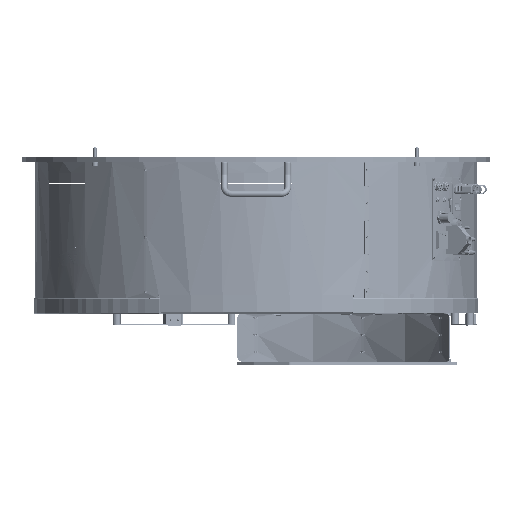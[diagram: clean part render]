
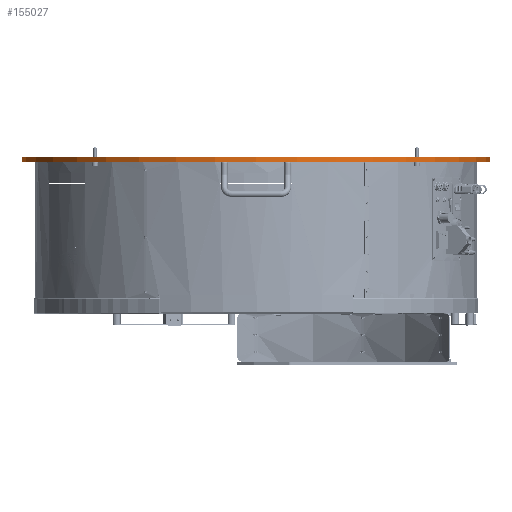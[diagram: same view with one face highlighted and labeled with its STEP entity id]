
A CAD part, front view. The second image highlights one B-rep face of the part: STEP entity #155027.
In plain terms, the highlighted cylindrical face has radius 445 mm (diameter 890 mm), a partial arc.
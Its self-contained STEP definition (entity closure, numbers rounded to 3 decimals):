
#4602 = DIRECTION ( 'NONE',  ( 0., 0., -1. ) ) ;
#7583 = EDGE_CURVE ( 'NONE', #155609, #262985, #228879, .T. ) ;
#11330 = DIRECTION ( 'NONE',  ( 0., 0., 1. ) ) ;
#14443 = ORIENTED_EDGE ( 'NONE', *, *, #182488, .F. ) ;
#55147 = CARTESIAN_POINT ( 'NONE',  ( 0., 0., 10. ) ) ;
#68142 = EDGE_CURVE ( 'NONE', #68349, #155609, #417157, .T. ) ;
#68349 = VERTEX_POINT ( 'NONE', #230183 ) ;
#90207 = CARTESIAN_POINT ( 'NONE',  ( 0., 0., 0. ) ) ;
#90452 = CARTESIAN_POINT ( 'NONE',  ( 0., 0., 10. ) ) ;
#104082 = VECTOR ( 'NONE', #118709, 1000. ) ;
#118709 = DIRECTION ( 'NONE',  ( 0., 0., -1. ) ) ;
#119049 = CARTESIAN_POINT ( 'NONE',  ( 445., 0., 0. ) ) ;
#130379 = CARTESIAN_POINT ( 'NONE',  ( -445., 0., 0. ) ) ;
#147644 = ORIENTED_EDGE ( 'NONE', *, *, #223260, .F. ) ;
#155027 = ADVANCED_FACE ( 'NONE', ( #392946 ), #269031, .T. ) ;
#155609 = VERTEX_POINT ( 'NONE', #130379 ) ;
#176797 = DIRECTION ( 'NONE',  ( 0., 0., -1. ) ) ;
#178993 = DIRECTION ( 'NONE',  ( -1., 0., 0. ) ) ;
#182488 = EDGE_CURVE ( 'NONE', #68349, #317329, #462702, .T. ) ;
#183326 = ORIENTED_EDGE ( 'NONE', *, *, #68142, .T. ) ;
#223260 = EDGE_CURVE ( 'NONE', #317329, #262985, #551321, .T. ) ;
#228879 = CIRCLE ( 'NONE', #372793, 445. ) ;
#230183 = CARTESIAN_POINT ( 'NONE',  ( -445., 0., 10. ) ) ;
#239856 = CARTESIAN_POINT ( 'NONE',  ( -445., 0., 10. ) ) ;
#254535 = AXIS2_PLACEMENT_3D ( 'NONE', #55147, #4602, #178993 ) ;
#262985 = VERTEX_POINT ( 'NONE', #119049 ) ;
#269031 = CYLINDRICAL_SURFACE ( 'NONE', #254535, 445. ) ;
#280442 = VECTOR ( 'NONE', #176797, 1000. ) ;
#317329 = VERTEX_POINT ( 'NONE', #463563 ) ;
#346597 = DIRECTION ( 'NONE',  ( 0., 0., 1. ) ) ;
#372793 = AXIS2_PLACEMENT_3D ( 'NONE', #90207, #11330, #478565 ) ;
#388483 = EDGE_LOOP ( 'NONE', ( #147644, #14443, #183326, #479522 ) ) ;
#392946 = FACE_OUTER_BOUND ( 'NONE', #388483, .T. ) ;
#417157 = LINE ( 'NONE', #239856, #104082 ) ;
#453799 = AXIS2_PLACEMENT_3D ( 'NONE', #90452, #346597, #521116 ) ;
#462702 = CIRCLE ( 'NONE', #453799, 445. ) ;
#463563 = CARTESIAN_POINT ( 'NONE',  ( 445., 0., 10. ) ) ;
#475171 = CARTESIAN_POINT ( 'NONE',  ( 445., 0., 10. ) ) ;
#478565 = DIRECTION ( 'NONE',  ( 1., 0., 0. ) ) ;
#479522 = ORIENTED_EDGE ( 'NONE', *, *, #7583, .T. ) ;
#521116 = DIRECTION ( 'NONE',  ( 1., 0., 0. ) ) ;
#551321 = LINE ( 'NONE', #475171, #280442 ) ;
